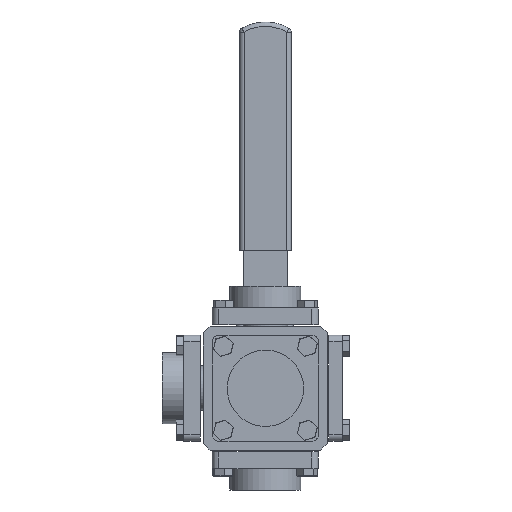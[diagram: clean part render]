
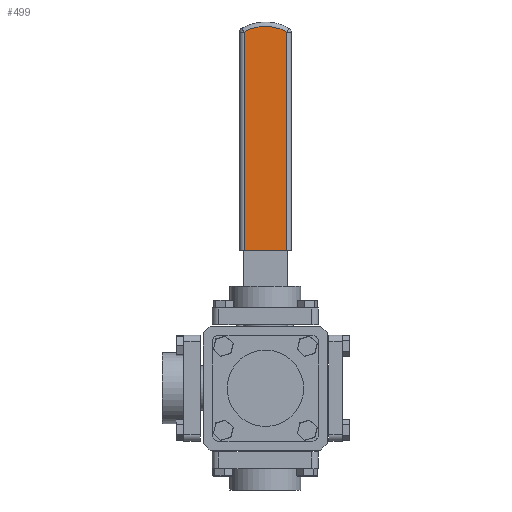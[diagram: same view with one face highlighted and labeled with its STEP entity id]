
A CAD part, front view. The second image highlights one B-rep face of the part: STEP entity #499.
In plain terms, the highlighted planar face has unit normal (0, -1, 0).
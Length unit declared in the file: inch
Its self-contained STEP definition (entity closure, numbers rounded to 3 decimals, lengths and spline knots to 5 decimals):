
#499 = ADVANCED_FACE ( 'NONE', ( #5014 ), #9399, .F. ) ;
#732 = DIRECTION ( 'NONE',  ( 0., 0., 1. ) ) ;
#956 = DIRECTION ( 'NONE',  ( 0., -1., 0. ) ) ;
#1227 = CARTESIAN_POINT ( 'NONE',  ( -0.6025, 4.625, 3.89766 ) ) ;
#1435 = VERTEX_POINT ( 'NONE', #1227 ) ;
#4852 = CARTESIAN_POINT ( 'NONE',  ( -0.6025, 4.625, 3.89766 ) ) ;
#5014 = FACE_OUTER_BOUND ( 'NONE', #25638, .T. ) ;
#5659 = EDGE_CURVE ( 'NONE', #18559, #20413, #17425, .T. ) ;
#6442 = EDGE_CURVE ( 'NONE', #18559, #1435, #20209, .T. ) ;
#7030 = CARTESIAN_POINT ( 'NONE',  ( 0., 4.625, 8.99434 ) ) ;
#7040 = LINE ( 'NONE', #4852, #9850 ) ;
#7075 = ORIENTED_EDGE ( 'NONE', *, *, #16702, .T. ) ;
#9384 = ORIENTED_EDGE ( 'NONE', *, *, #5659, .T. ) ;
#9399 = PLANE ( 'NONE',  #15260 ) ;
#9414 = DIRECTION ( 'NONE',  ( -1., 0., 0. ) ) ;
#9850 = VECTOR ( 'NONE', #21715, 39.37008 ) ;
#10578 = CARTESIAN_POINT ( 'NONE',  ( 0.6025, 4.625, 10.13452 ) ) ;
#11269 = ORIENTED_EDGE ( 'NONE', *, *, #6442, .F. ) ;
#11589 = CARTESIAN_POINT ( 'NONE',  ( 0., 4.625, 8.99434 ) ) ;
#13973 = EDGE_CURVE ( 'NONE', #20413, #21207, #23789, .T. ) ;
#15139 = CARTESIAN_POINT ( 'NONE',  ( 0.6025, 4.625, 10.06381 ) ) ;
#15260 = AXIS2_PLACEMENT_3D ( 'NONE', #11589, #20047, #17961 ) ;
#15725 = DIRECTION ( 'NONE',  ( -1., 0., 0. ) ) ;
#16467 = VECTOR ( 'NONE', #732, 39.37008 ) ;
#16702 = EDGE_CURVE ( 'NONE', #21207, #1435, #7040, .T. ) ;
#17425 = LINE ( 'NONE', #10578, #16467 ) ;
#17961 = DIRECTION ( 'NONE',  ( -1., 0., 0. ) ) ;
#18001 = AXIS2_PLACEMENT_3D ( 'NONE', #7030, #956, #15725 ) ;
#18559 = VERTEX_POINT ( 'NONE', #23999 ) ;
#20047 = DIRECTION ( 'NONE',  ( 0., 1., 0. ) ) ;
#20190 = ORIENTED_EDGE ( 'NONE', *, *, #13973, .T. ) ;
#20209 = LINE ( 'NONE', #22290, #22592 ) ;
#20413 = VERTEX_POINT ( 'NONE', #15139 ) ;
#21207 = VERTEX_POINT ( 'NONE', #27160 ) ;
#21715 = DIRECTION ( 'NONE',  ( 0., 0., -1. ) ) ;
#22290 = CARTESIAN_POINT ( 'NONE',  ( -0.7275, 4.625, 3.89766 ) ) ;
#22592 = VECTOR ( 'NONE', #9414, 39.37008 ) ;
#23789 = CIRCLE ( 'NONE', #18001, 1.2275 ) ;
#23999 = CARTESIAN_POINT ( 'NONE',  ( 0.6025, 4.625, 3.89766 ) ) ;
#25638 = EDGE_LOOP ( 'NONE', ( #11269, #9384, #20190, #7075 ) ) ;
#27160 = CARTESIAN_POINT ( 'NONE',  ( -0.6025, 4.625, 10.06381 ) ) ;
